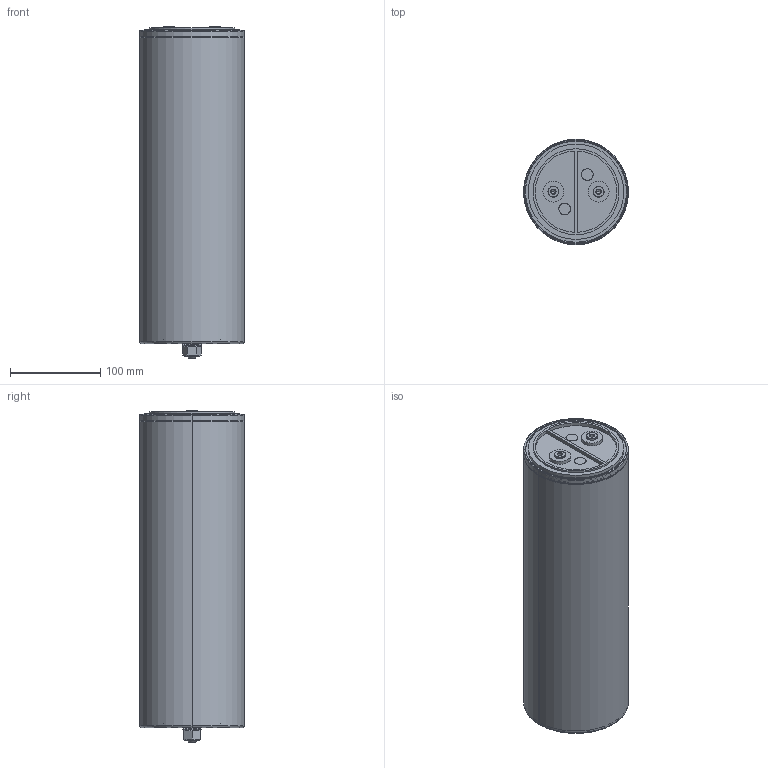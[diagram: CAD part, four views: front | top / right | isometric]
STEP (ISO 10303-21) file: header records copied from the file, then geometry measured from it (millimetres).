
FILE_DESCRIPTION (( 'STEP AP203' ), '1' );
FILE_NAME ('B25620x_116x345_351.STEP', '2021-07-01T06:00:11', ( '' ), ( '' ), 'SwSTEP 2.0', 'SolidWorks 2017', '' );
FILE_SCHEMA (( 'CONFIG_CONTROL_DESIGN' ));
Length unit declared in the file: millimetre
Products named in the file (1): B25620x_116x345_351
Bounding box: 116 x 116 x 367 mm (x, y, z)
Volume: 166522.6 mm3; surface area: 302990.2 mm2
Topology: 2 solids, 15 shells, 283 faces, 620 edges, 392 vertices
Faces by surface type: plane 113, cylinder 80, bspline 50, cone 22, torus 18
Entity records: 8809 total; most frequent: CARTESIAN_POINT 2696, ORIENTED_EDGE 1232, DIRECTION 1210, EDGE_CURVE 616, AXIS2_PLACEMENT_3D 456, VERTEX_POINT 392, EDGE_LOOP 314, VECTOR 298
